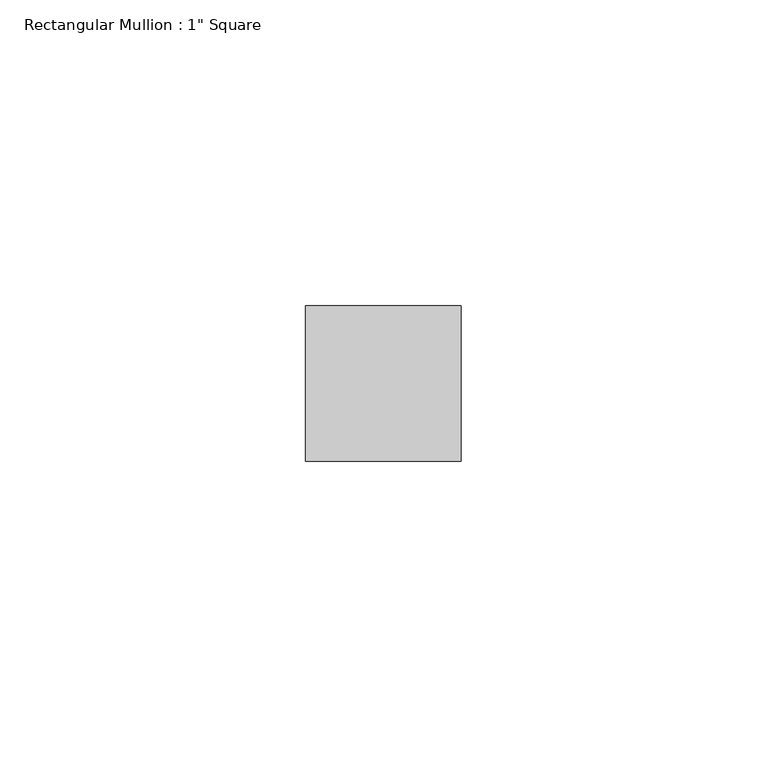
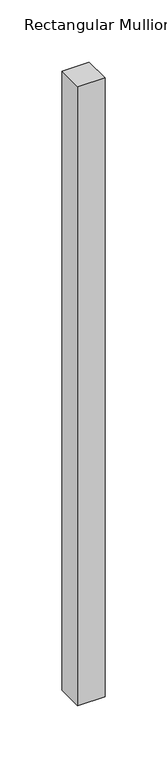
"""IFC4 building model written with IfcOpenShell, lengths in millimetres: member geometry."""

from ifc_helpers import new_model, si_unit, frame, origin, place, context, project, spatial, polyline, outline, extrude, source, transform, mapped, element, save


def member_bb70d6ce(model_context):
    return source(origin(), model_context, "Body", "SweptSolid", [
        extrude(outline(polyline([(12.7, 44.45), (12.7, 19.05), (-12.7, 19.05), (-12.7, 44.45), (12.7, 44.45)])), frame((0.0, 0.0, -609.6), z_axis=(0.0, 0.0, 1.0), x_axis=(1.0, 0.0, 0.0)), (0.0, 0.0, 1.0), 609.6),
    ])


if __name__ == "__main__":
    model = new_model("IFC4")
    model_context = context("Model", 3, world=origin())
    ifc_project = project(units=[si_unit("LENGTHUNIT", "METRE", prefix="MILLI")], contexts=[model_context])
    site = spatial("IfcSite", under=ifc_project)
    building = spatial("IfcBuilding", under=site)
    placement = place(None, origin())
    member_shape = member_bb70d6ce(model_context)
    element("IfcMember", 1, ObjectType="Rectangular Mullion : 1\" Square", at=placement, inside=building, context=model_context, shape_type="MappedRepresentation", body=[
        mapped(member_shape, transform((0.0, 0.0, 0.0), x_axis=(1.0, 0.0, 0.0), y_axis=(0.0, 1.0, 0.0), z_axis=(0.0, 0.0, 1.0))),
    ])
    save(model, "model.ifc")
